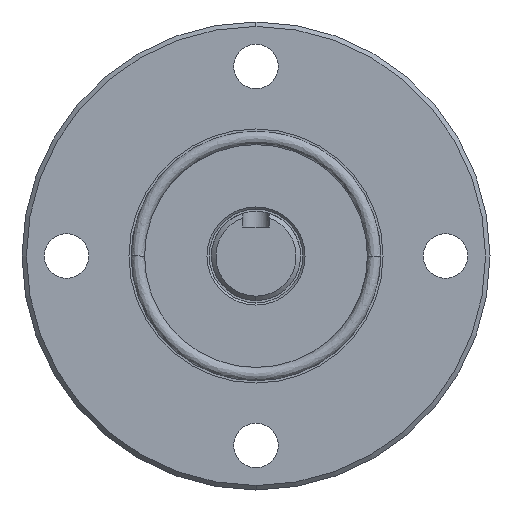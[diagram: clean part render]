
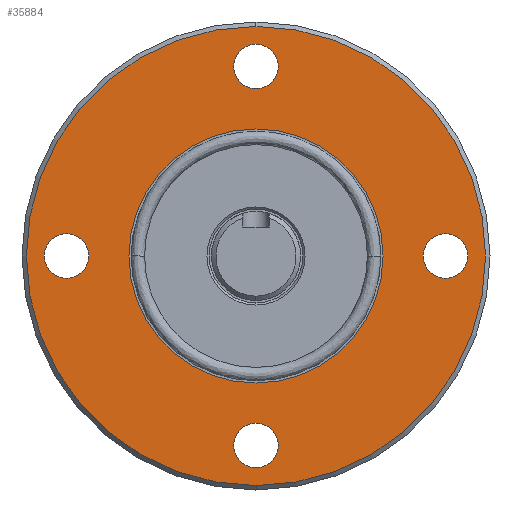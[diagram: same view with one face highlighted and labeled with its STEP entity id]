
A CAD part, left-side view. The second image highlights one B-rep face of the part: STEP entity #35884.
In plain terms, the highlighted planar face has unit normal (-1, 0, 0).
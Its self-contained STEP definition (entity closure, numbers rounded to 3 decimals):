
#5398 = DIRECTION ( 'NONE',  ( 0., -1., 0. ) ) ;
#5415 = DIRECTION ( 'NONE',  ( -1., 0., 0. ) ) ;
#5838 = CARTESIAN_POINT ( 'NONE',  ( 35., 42.5, 0. ) ) ;
#5839 = AXIS2_PLACEMENT_3D ( 'NONE', #5838, #5415, #5398 ) ;
#5840 = CIRCLE ( 'NONE', #5839, 5. ) ;
#6472 = CARTESIAN_POINT ( 'NONE',  ( 35., 37.5, 0. ) ) ;
#6473 = CARTESIAN_POINT ( 'NONE',  ( 35., 47.5, 0. ) ) ;
#6557 = CARTESIAN_POINT ( 'NONE',  ( 35., 5., -42.5 ) ) ;
#6573 = AXIS2_PLACEMENT_3D ( 'NONE', #6628, #6627, #6626 ) ;
#6574 = CIRCLE ( 'NONE', #6573, 5. ) ;
#6575 = CARTESIAN_POINT ( 'NONE',  ( 35., 5., 42.5 ) ) ;
#6615 = CARTESIAN_POINT ( 'NONE',  ( 35., -5., -42.5 ) ) ;
#6616 = DIRECTION ( 'NONE',  ( 0., -1., 0. ) ) ;
#6617 = DIRECTION ( 'NONE',  ( -1., 0., 0. ) ) ;
#6618 = CARTESIAN_POINT ( 'NONE',  ( 35., 0., -42.5 ) ) ;
#6619 = AXIS2_PLACEMENT_3D ( 'NONE', #6618, #6617, #6616 ) ;
#6620 = CIRCLE ( 'NONE', #6619, 5. ) ;
#6625 = CARTESIAN_POINT ( 'NONE',  ( 35., -5., 42.5 ) ) ;
#6626 = DIRECTION ( 'NONE',  ( 0., -1., 0. ) ) ;
#6627 = DIRECTION ( 'NONE',  ( -1., 0., 0. ) ) ;
#6628 = CARTESIAN_POINT ( 'NONE',  ( 35., 0., 42.5 ) ) ;
#6684 = DIRECTION ( 'NONE',  ( 0., -1., 0. ) ) ;
#6685 = DIRECTION ( 'NONE',  ( -1., 0., 0. ) ) ;
#6686 = CARTESIAN_POINT ( 'NONE',  ( 35., -42.5, 0. ) ) ;
#6687 = AXIS2_PLACEMENT_3D ( 'NONE', #6686, #6685, #6684 ) ;
#6688 = CIRCLE ( 'NONE', #6687, 5. ) ;
#6689 = CARTESIAN_POINT ( 'NONE',  ( 35., -47.5, 0. ) ) ;
#6690 = CARTESIAN_POINT ( 'NONE',  ( 35., -37.5, 0. ) ) ;
#7064 = CARTESIAN_POINT ( 'NONE',  ( 35., -28.5, 0. ) ) ;
#7079 = CARTESIAN_POINT ( 'NONE',  ( 35., 28.5, 0. ) ) ;
#7116 = DIRECTION ( 'NONE',  ( 0., -1., 0. ) ) ;
#7117 = DIRECTION ( 'NONE',  ( 1., 0., 0. ) ) ;
#7118 = CARTESIAN_POINT ( 'NONE',  ( 35., 0., 0. ) ) ;
#7119 = AXIS2_PLACEMENT_3D ( 'NONE', #7118, #7117, #7116 ) ;
#7120 = CIRCLE ( 'NONE', #7119, 28.5 ) ;
#9434 = CARTESIAN_POINT ( 'NONE',  ( 35., 0., 51.5 ) ) ;
#9435 = CARTESIAN_POINT ( 'NONE',  ( 35., 0., -51.5 ) ) ;
#9436 = DIRECTION ( 'NONE',  ( 0., 0., -1. ) ) ;
#9437 = DIRECTION ( 'NONE',  ( -1., 0., 0. ) ) ;
#9438 = CARTESIAN_POINT ( 'NONE',  ( 35., 0., 0. ) ) ;
#9439 = AXIS2_PLACEMENT_3D ( 'NONE', #9438, #9437, #9436 ) ;
#9440 = CIRCLE ( 'NONE', #9439, 51.5 ) ;
#20929 = DIRECTION ( 'NONE',  ( 0., 0., -1. ) ) ;
#20930 = DIRECTION ( 'NONE',  ( -1., 0., 0. ) ) ;
#20931 = CARTESIAN_POINT ( 'NONE',  ( 35., 0., 0. ) ) ;
#20932 = AXIS2_PLACEMENT_3D ( 'NONE', #20931, #20930, #20929 ) ;
#20933 = CIRCLE ( 'NONE', #20932, 51.5 ) ;
#21721 = CIRCLE ( 'NONE', #21791, 28.5 ) ;
#21788 = DIRECTION ( 'NONE',  ( 0., -1., 0. ) ) ;
#21789 = DIRECTION ( 'NONE',  ( 1., 0., 0. ) ) ;
#21790 = CARTESIAN_POINT ( 'NONE',  ( 35., 0., 0. ) ) ;
#21791 = AXIS2_PLACEMENT_3D ( 'NONE', #21790, #21789, #21788 ) ;
#26624 = DIRECTION ( 'NONE',  ( 0., -1., 0. ) ) ;
#26625 = DIRECTION ( 'NONE',  ( -1., 0., 0. ) ) ;
#26626 = CARTESIAN_POINT ( 'NONE',  ( 35., 0., -42.5 ) ) ;
#26627 = AXIS2_PLACEMENT_3D ( 'NONE', #26626, #26625, #26624 ) ;
#26628 = CIRCLE ( 'NONE', #26627, 5. ) ;
#26629 = DIRECTION ( 'NONE',  ( 0., -1., 0. ) ) ;
#26630 = DIRECTION ( 'NONE',  ( -1., 0., 0. ) ) ;
#26631 = AXIS2_PLACEMENT_3D ( 'NONE', #26648, #26630, #26629 ) ;
#26632 = CIRCLE ( 'NONE', #26631, 5. ) ;
#26633 = DIRECTION ( 'NONE',  ( 0., -1., 0. ) ) ;
#26634 = DIRECTION ( 'NONE',  ( -1., 0., 0. ) ) ;
#26635 = CARTESIAN_POINT ( 'NONE',  ( 35., 0., 42.5 ) ) ;
#26646 = AXIS2_PLACEMENT_3D ( 'NONE', #26635, #26634, #26633 ) ;
#26647 = CIRCLE ( 'NONE', #26646, 5. ) ;
#26648 = CARTESIAN_POINT ( 'NONE',  ( 35., -42.5, 0. ) ) ;
#27930 = FACE_OUTER_BOUND ( 'NONE', #35825, .T. ) ;
#27931 = FACE_BOUND ( 'NONE', #35818, .T. ) ;
#27932 = FACE_BOUND ( 'NONE', #35971, .T. ) ;
#27933 = FACE_BOUND ( 'NONE', #35742, .T. ) ;
#27934 = FACE_BOUND ( 'NONE', #35737, .T. ) ;
#27953 = FACE_BOUND ( 'NONE', #35731, .T. ) ;
#27971 = DIRECTION ( 'NONE',  ( 0., -1., 0. ) ) ;
#27972 = DIRECTION ( 'NONE',  ( -1., 0., 0. ) ) ;
#27973 = CARTESIAN_POINT ( 'NONE',  ( 35., 10., 0. ) ) ;
#27974 = AXIS2_PLACEMENT_3D ( 'NONE', #27973, #27972, #27971 ) ;
#27975 = PLANE ( 'NONE',  #27974 ) ;
#28094 = DIRECTION ( 'NONE',  ( 0., -1., 0. ) ) ;
#28095 = DIRECTION ( 'NONE',  ( -1., 0., 0. ) ) ;
#28096 = AXIS2_PLACEMENT_3D ( 'NONE', #28109, #28095, #28094 ) ;
#28097 = CIRCLE ( 'NONE', #28096, 5. ) ;
#28109 = CARTESIAN_POINT ( 'NONE',  ( 35., 42.5, 0. ) ) ;
#31460 = EDGE_CURVE ( 'NONE', #31520, #31522, #5840, .T. ) ;
#31520 = VERTEX_POINT ( 'NONE', #6473 ) ;
#31522 = VERTEX_POINT ( 'NONE', #6472 ) ;
#31540 = VERTEX_POINT ( 'NONE', #6557 ) ;
#31569 = VERTEX_POINT ( 'NONE', #6575 ) ;
#31573 = EDGE_CURVE ( 'NONE', #31569, #31576, #6574, .T. ) ;
#31576 = VERTEX_POINT ( 'NONE', #6625 ) ;
#31582 = EDGE_CURVE ( 'NONE', #31540, #31583, #6620, .T. ) ;
#31583 = VERTEX_POINT ( 'NONE', #6615 ) ;
#31656 = VERTEX_POINT ( 'NONE', #6690 ) ;
#31658 = EDGE_CURVE ( 'NONE', #31656, #31659, #6688, .T. ) ;
#31659 = VERTEX_POINT ( 'NONE', #6689 ) ;
#31883 = VERTEX_POINT ( 'NONE', #7064 ) ;
#31906 = VERTEX_POINT ( 'NONE', #7079 ) ;
#31920 = EDGE_CURVE ( 'NONE', #31883, #31906, #7120, .T. ) ;
#32838 = EDGE_CURVE ( 'NONE', #32845, #32841, #9440, .T. ) ;
#32841 = VERTEX_POINT ( 'NONE', #9435 ) ;
#32845 = VERTEX_POINT ( 'NONE', #9434 ) ;
#34979 = EDGE_CURVE ( 'NONE', #32841, #32845, #20933, .T. ) ;
#35073 = EDGE_CURVE ( 'NONE', #31906, #31883, #21721, .T. ) ;
#35731 = EDGE_LOOP ( 'NONE', ( #35733, #35736 ) ) ;
#35733 = ORIENTED_EDGE ( 'NONE', *, *, #35734, .F. ) ;
#35734 = EDGE_CURVE ( 'NONE', #31576, #31569, #26647, .T. ) ;
#35736 = ORIENTED_EDGE ( 'NONE', *, *, #31573, .F. ) ;
#35737 = EDGE_LOOP ( 'NONE', ( #35738, #35741 ) ) ;
#35738 = ORIENTED_EDGE ( 'NONE', *, *, #35740, .F. ) ;
#35740 = EDGE_CURVE ( 'NONE', #31659, #31656, #26632, .T. ) ;
#35741 = ORIENTED_EDGE ( 'NONE', *, *, #31658, .F. ) ;
#35742 = EDGE_LOOP ( 'NONE', ( #35744, #35747 ) ) ;
#35744 = ORIENTED_EDGE ( 'NONE', *, *, #35745, .F. ) ;
#35745 = EDGE_CURVE ( 'NONE', #31583, #31540, #26628, .T. ) ;
#35747 = ORIENTED_EDGE ( 'NONE', *, *, #31582, .F. ) ;
#35818 = EDGE_LOOP ( 'NONE', ( #35820, #35822 ) ) ;
#35820 = ORIENTED_EDGE ( 'NONE', *, *, #31920, .T. ) ;
#35822 = ORIENTED_EDGE ( 'NONE', *, *, #35073, .T. ) ;
#35825 = EDGE_LOOP ( 'NONE', ( #35827, #35829 ) ) ;
#35827 = ORIENTED_EDGE ( 'NONE', *, *, #34979, .T. ) ;
#35829 = ORIENTED_EDGE ( 'NONE', *, *, #32838, .T. ) ;
#35884 = ADVANCED_FACE ( 'NONE', ( #27953, #27934, #27933, #27932, #27931, #27930 ), #27975, .T. ) ;
#35971 = EDGE_LOOP ( 'NONE', ( #35973, #35978 ) ) ;
#35973 = ORIENTED_EDGE ( 'NONE', *, *, #35975, .F. ) ;
#35975 = EDGE_CURVE ( 'NONE', #31522, #31520, #28097, .T. ) ;
#35978 = ORIENTED_EDGE ( 'NONE', *, *, #31460, .F. ) ;
